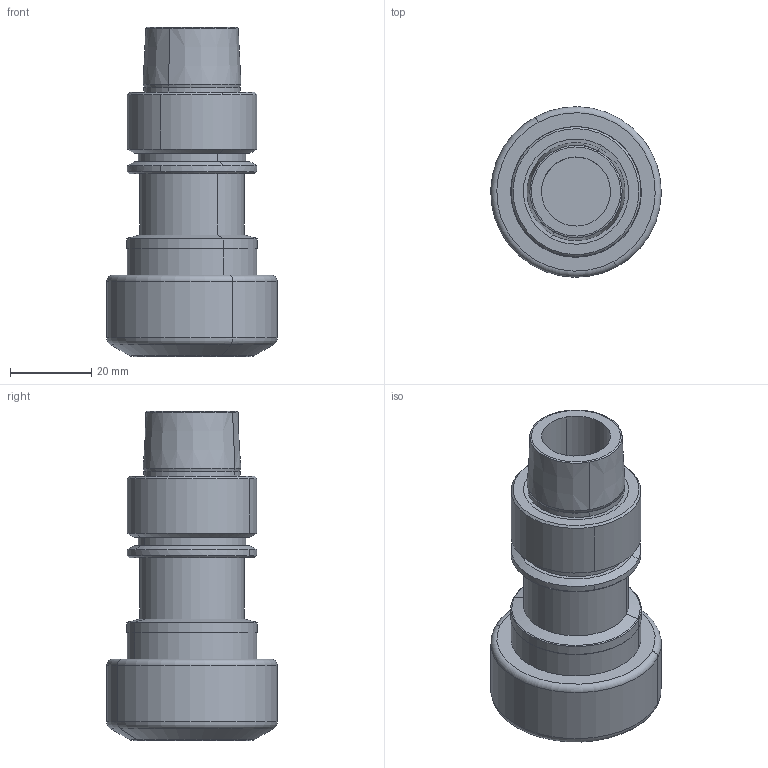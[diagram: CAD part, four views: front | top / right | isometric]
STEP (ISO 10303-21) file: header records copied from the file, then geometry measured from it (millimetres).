
FILE_DESCRIPTION(('CATIA V5 STEP','CAx-IF Rec.Pracs.--- Model Styling and Organization---1.2---2011-12-15'),'2;1');
FILE_NAME('\\nas01\drv1\utils\eitdev\rte\eit\transmagicconvert\db\out\635932029648919356\4505784-D-L-B.stp','2016-03-10T08:36:16+00:00',('none'),('none'),'CATIA Version 5 Release 21 SP 5 (IN-10)','CATIA V5 STEP AP214','none');
FILE_SCHEMA(('AUTOMOTIVE_DESIGN { 1 0 10303 214 1 1 1 1 }'));
Length unit declared in the file: millimetre
Products named in the file (1): HSK E 32 ER25X 65 
Bounding box: 41.99 x 41.99 x 81 mm (x, y, z)
Volume: 41507.6 mm3; surface area: 15513.3 mm2
Topology: 1 solids, 1 shells, 69 faces, 144 edges, 83 vertices
Faces by surface type: cylinder 24, cone 24, torus 12, plane 9
Entity records: 1617 total; most frequent: ORIENTED_EDGE 284, CARTESIAN_POINT 267, DIRECTION 224, EDGE_CURVE 142, AXIS2_PLACEMENT_3D 136, CIRCLE 94, VERTEX_POINT 83, EDGE_LOOP 77
